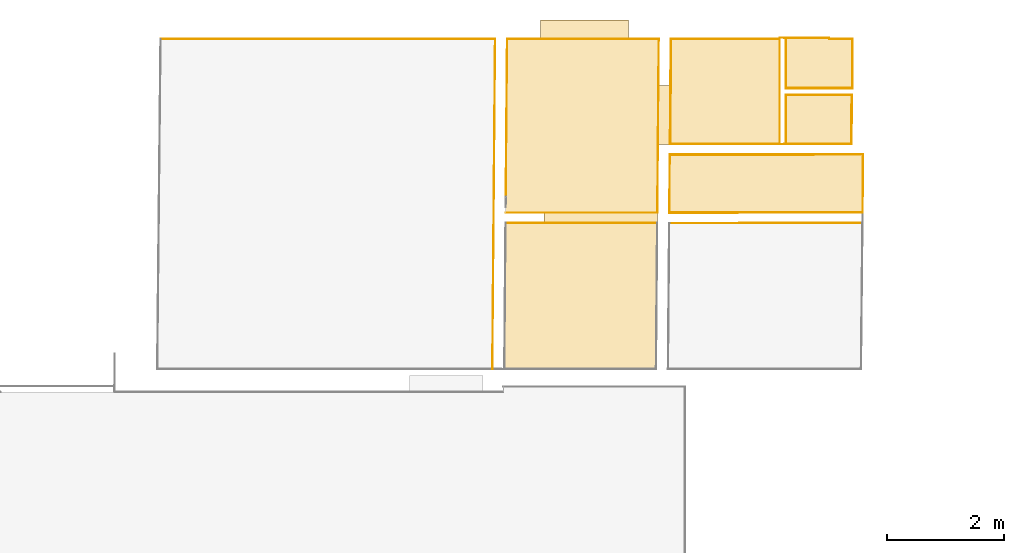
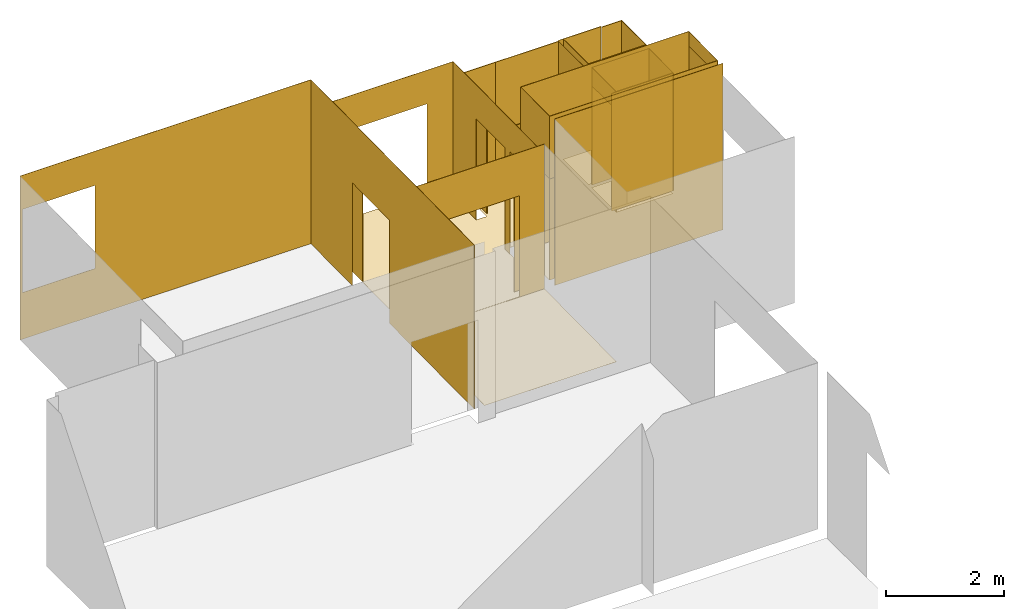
# One storey, part 28 of 33: 33 coverings, 11 openings.
"""IFC2X3 building model written with IfcOpenShell, lengths in millimetres."""

from ifc_helpers import new_model, entity, si_unit, converted_unit, derived_unit, money_unit, direction, frame, origin_with_axes, origin_2d_with_axis, place, context, subcontext, project, spatial, polyline, rectangle, outline, extrude, material, type_object, element, save


model = new_model("IFC2X3")

# Units and contexts
model_context = context("Model", 3, precision=0.01, world=origin_with_axes(), true_north=direction((0.0, 1.0)))
body_context = subcontext(model_context, "Body", "Model", "MODEL_VIEW")
ifc_project = project(units=[si_unit("LENGTHUNIT", "METRE", prefix="MILLI"), si_unit("AREAUNIT", "SQUARE_METRE"), si_unit("VOLUMEUNIT", "CUBIC_METRE"), converted_unit("PLANEANGLEUNIT", "DEGREE", entity("IfcPlaneAngleMeasure", 0.0174532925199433), si_unit("PLANEANGLEUNIT", "RADIAN"), dimensions=[0, 0, 0, 0, 0, 0, 0]), money_unit("EUR"), converted_unit("TIMEUNIT", "Year", entity("IfcTimeMeasure", 31556926.0), si_unit("TIMEUNIT", "SECOND"), dimensions=[0, 0, 1, 0, 0, 0, 0]), si_unit("MASSUNIT", "GRAM", prefix="KILO"), si_unit("THERMODYNAMICTEMPERATUREUNIT", "DEGREE_CELSIUS"), si_unit("LUMINOUSINTENSITYUNIT", "LUMEN"), si_unit("ENERGYUNIT", "JOULE", prefix="MEGA"), derived_unit("THERMALCONDUCTANCEUNIT", [(si_unit("POWERUNIT", "WATT"), 1), (si_unit("LENGTHUNIT", "METRE"), -1), (si_unit("THERMODYNAMICTEMPERATUREUNIT", "KELVIN"), -1)]), derived_unit("SPECIFICHEATCAPACITYUNIT", [(si_unit("ENERGYUNIT", "JOULE"), 1), (si_unit("MASSUNIT", "GRAM", prefix="KILO"), -1), (si_unit("THERMODYNAMICTEMPERATUREUNIT", "KELVIN"), -1)]), derived_unit("MASSDENSITYUNIT", [(si_unit("MASSUNIT", "GRAM", prefix="KILO"), 1), (si_unit("VOLUMEUNIT", "CUBIC_METRE"), -1)])], contexts=[model_context])

# Site, building, storey
site_placement = place(None, origin_with_axes())
site = spatial("IfcSite", under=ifc_project, at=site_placement, Name="Paldiski mnt 245/1, Tallinn, Harjumaa", CompositionType="COMPLEX")
building_placement = place(site_placement, origin_with_axes())
building = spatial("IfcBuilding", under=site, at=building_placement, Name="RKAS Hoone üldnimetus (kasutust iseloomustav) -> IFC Project Manager -> SOLIBRI", CompositionType="ELEMENT")
storey_placement = place(building_placement, origin_with_axes())
storey = spatial("IfcBuildingStorey", under=building, at=storey_placement, Name="Esimene korrus", CompositionType="ELEMENT", Elevation=0.0)

# Covering, opening
ifc_material_1 = material(Name="SA- Värv SM4(Niiskuskindel värv)")
covering_type_1 = type_object("IfcCoveringType", Name="SA- Värv SM4(Niiskuskindel värv) 5", PredefinedType="CLADDING")
covering_1_placement = place(storey_placement, frame((-50859.10372353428, 32630.2262574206, 0.0), z_axis=(0.0, 0.0, 1.0), x_axis=(-1.0, 0.0, 0.0)))
covering_1 = element("IfcCovering", 1, at=covering_1_placement, inside=storey, type_object=covering_type_1, material=ifc_material_1, Name="SM4", PredefinedType="CLADDING", context=body_context, shape_type="SweptSolid", body=[
    extrude(outline(polyline([(1.868150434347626e-05, 0.0), (2589.992998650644, 0.0), (2585.034685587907, 5.000000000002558), (0.04188086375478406, 5.000000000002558), (1.868150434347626e-05, 0.0)])), origin_with_axes(), (0.0, 0.0, 1.0), 3000.0),
])
opening_1_placement = place(covering_1_placement, frame((-50859.10372353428, 32630.2262574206, 0.0), z_axis=(0.0, 0.0, 1.0), x_axis=(-1.0, 0.0, 0.0)))
element("IfcOpeningElement", 2, at=opening_1_placement, cuts=covering_1, Name="AVA", ObjectType="OPENING", context=body_context, shape_type="SweptSolid", body=[
    extrude(rectangle(XDim=1448.552508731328, YDim=2099.0, at=origin_2d_with_axis()), frame((-52073.39716400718, 32635.2262574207, 1050.5), z_axis=(0.0, 1.0, 0.0), x_axis=(-1.0, 0.0, 0.0)), (0.0, 0.0, -1.0), 15.00000000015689),
])

# Covering, openings
covering_2_placement = place(storey_placement, frame((-50857.6804280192, 32800.2262574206, 0.0), z_axis=(0.0, 0.0, 1.0), x_axis=(0.008372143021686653, 0.999964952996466, 0.0)))
covering_2 = element("IfcCovering", 3, at=covering_2_placement, inside=storey, type_object=covering_type_1, material=ifc_material_1, Name="SM4", PredefinedType="CLADDING", context=body_context, shape_type="SweptSolid", body=[
    extrude(outline(polyline([(11.00038553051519, 0.0), (2969.706546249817, 0.0), (2969.664684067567, 4.999999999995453), (-0.04186218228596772, 5.000000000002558), (11.00038553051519, 0.0)])), origin_with_axes(), (0.0, 0.0, 1.0), 2800.0),
])
opening_2_placement = place(covering_2_placement, frame((-32373.28893348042, -51130.5062040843, 0.0), z_axis=(0.0, 0.0, 1.0), x_axis=(0.008372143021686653, -0.999964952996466, 0.0)))
element("IfcOpeningElement", 4, at=opening_2_placement, cuts=covering_2, Name="AVA", ObjectType="OPENING", context=body_context, shape_type="SweptSolid", body=[
    extrude(rectangle(XDim=1015.029836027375, YDim=2130.12326312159, at=origin_2d_with_axis()), frame((-50802.95498760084, 33297.98878511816, 1065.061631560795), z_axis=(0.999964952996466, -0.008372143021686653, 0.0), x_axis=(0.008372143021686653, 0.999964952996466, 0.0)), (0.0, 0.0, -1.0), 89.59103767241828),
])
opening_3_placement = place(covering_2_placement, frame((-32373.28893348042, -51130.5062040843, 0.0), z_axis=(0.0, 0.0, 1.0), x_axis=(0.008372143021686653, -0.999964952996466, 0.0)))
element("IfcOpeningElement", 5, at=opening_3_placement, cuts=covering_2, Name="AVA", ObjectType="OPENING", context=body_context, shape_type="SweptSolid", body=[
    extrude(rectangle(XDim=999.9999999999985, YDim=2100.0, at=origin_2d_with_axis()), frame((-50802.95498760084, 34471.14459560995, 1050.0), z_axis=(0.999964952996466, -0.008372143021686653, 0.0), x_axis=(0.008372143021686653, 0.999964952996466, 0.0)), (0.0, 0.0, -1.0), 89.59103767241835),
])

# Covering, opening
covering_3_placement = place(storey_placement, frame((-50832.81762019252, 35769.82871110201, 0.0), z_axis=(0.0, 0.0, 1.0), x_axis=(-0.9999999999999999, -1.366369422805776e-08, 0.0)))
covering_3 = element("IfcCovering", 6, at=covering_3_placement, inside=storey, type_object=covering_type_1, material=ifc_material_1, Name="SM4", PredefinedType="CLADDING", context=body_context, shape_type="SweptSolid", body=[
    extrude(outline(polyline([(0.0, 0.0), (2589.992990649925, 0.0), (2589.992990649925, 5.000000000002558), (0.0, 5.000000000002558), (0.0, 0.0)])), origin_with_axes(), (0.0, 0.0, 1.0), 2800.0),
])
opening_4_placement = place(covering_3_placement, frame((-50832.81713144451, 35769.82940566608, 0.0), z_axis=(0.0, 0.0, 1.0), x_axis=(-0.9999999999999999, 1.366369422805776e-08, 0.0)))
element("IfcOpeningElement", 7, at=opening_4_placement, cuts=covering_3, Name="AVA", ObjectType="OPENING", context=body_context, shape_type="SweptSolid", body=[
    extrude(rectangle(XDim=1500.000000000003, YDim=2100.0, at=origin_2d_with_axis()), frame((-52099.12090970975, 35774.82874649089, 1050.0), z_axis=(-1.366369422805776e-08, 0.9999999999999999, 0.0), x_axis=(-0.9999999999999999, -1.366369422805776e-08, 0.0)), (0.0, 0.0, -1.0), 15.00010616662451),
])

covering_4_placement = place(storey_placement, frame((-53422.81061084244, 35769.82867571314, 0.0), z_axis=(0.0, 0.0, 1.0), x_axis=(-0.008372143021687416, -0.999964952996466, 0.0)))
covering_4 = element("IfcCovering", 8, at=covering_4_placement, inside=storey, type_object=covering_type_1, material=ifc_material_1, Name="SM4", PredefinedType="CLADDING", context=body_context, shape_type="SweptSolid", body=[
    extrude(outline(polyline([(-4.864322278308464e-05, 0.0), (2700.178202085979, 0.0), (2695.178202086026, 4.999999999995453), (-0.04191082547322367, 4.999999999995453), (-4.864322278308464e-05, 0.0)])), origin_with_axes(), (0.0, 0.0, 1.0), 2800.0),
])
opening_5_placement = place(covering_4_placement, frame((35321.31163934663, 53720.40842294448, 0.0), z_axis=(0.0, 0.0, 1.0), x_axis=(-0.008372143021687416, 0.999964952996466, 0.0)))
element("IfcOpeningElement", 9, at=opening_5_placement, cuts=covering_4, Name="AVA", ObjectType="OPENING", context=body_context, shape_type="SweptSolid", body=[
    extrude(rectangle(XDim=1305.93822624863, YDim=2136.216417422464, at=origin_2d_with_axis()), frame((-53473.02299179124, 33690.9543071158, 1068.108208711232), z_axis=(-0.999964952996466, 0.008372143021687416, 0.0), x_axis=(-0.008372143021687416, -0.999964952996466, 0.0)), (0.0, 0.0, -1.0), 82.82121120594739),
])

covering_5_placement = place(storey_placement, frame((-53447.67341837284, 32800.22625742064, 0.0), z_axis=(0.0, 0.0, 1.0), x_axis=(1.0, 0.0, 0.0)))
covering_5 = element("IfcCovering", 10, at=covering_5_placement, inside=storey, type_object=covering_type_1, material=ifc_material_1, Name="SM4", PredefinedType="CLADDING", context=body_context, shape_type="SweptSolid", body=[
    extrude(outline(polyline([(0.0, 0.0), (2589.99299035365, 0.0), (2590.034852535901, 5.000000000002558), (5.042037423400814, 5.000000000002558), (0.0, 0.0)])), origin_with_axes(), (0.0, 0.0, 1.0), 2800.0),
])
opening_6_placement = place(covering_5_placement, frame((53447.67341837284, -32800.22625742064, 0.0), z_axis=(0.0, 0.0, 1.0), x_axis=(1.0, 0.0, 0.0)))
element("IfcOpeningElement", 11, at=opening_6_placement, cuts=covering_5, Name="AVA", ObjectType="OPENING", context=body_context, shape_type="SweptSolid", body=[
    extrude(rectangle(XDim=1448.552508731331, YDim=2100.0, at=origin_2d_with_axis()), frame((-52073.39716400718, 32795.22625742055, 1050.0), z_axis=(0.0, -1.0, 0.0), x_axis=(1.0, 0.0, 0.0)), (0.0, 0.0, -1.0), 15.00000000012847),
])

# Coverings
covering_6_placement = place(storey_placement, frame((-47358.63655303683, 32800.22625742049, 0.0), z_axis=(0.0, 0.0, 1.0), x_axis=(0.008061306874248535, 0.9999675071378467, 0.0)))
element("IfcCovering", 12, at=covering_6_placement, inside=storey, type_object=covering_type_1, material=ifc_material_1, Name="SM4", PredefinedType="CLADDING", context=body_context, shape_type="SweptSolid", body=[
    extrude(outline(polyline([(0.0, 0.0), (999.6068747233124, 0.0), (988.5652853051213, 5.000000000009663), (0.0, 5.000000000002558), (0.0, 0.0)])), origin_with_axes(), (0.0, 0.0, 1.0), 3100.0),
])
covering_7_placement = place(storey_placement, frame((-50857.68364690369, 32799.84179532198, 2100.0), z_axis=(0.0, 0.0, 1.0), x_axis=(0.9999999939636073, 0.0001098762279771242, 0.0)))
element("IfcCovering", 13, at=covering_7_placement, inside=storey, type_object=covering_type_1, material=ifc_material_1, Name="SM4", PredefinedType="CLADDING", context=body_context, shape_type="SweptSolid", body=[
    extrude(outline(polyline([(200.0071948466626, 0.0), (3499.047114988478, 0.0), (3499.098073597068, 5.000000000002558), (200.0496064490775, 5.000000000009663), (200.0071948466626, 0.0)])), origin_with_axes(), (0.0, 0.0, 1.0), 1300.0),
])
covering_8_placement = place(storey_placement, frame((-47348.55872669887, 33799.82872435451, 2100.0), z_axis=(0.0, 0.0, 1.0), x_axis=(-0.9999999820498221, -0.0001894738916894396, 0.0)))
element("IfcCovering", 14, at=covering_8_placement, inside=storey, type_object=covering_type_1, material=ifc_material_1, Name="SM4", PredefinedType="CLADDING", context=body_context, shape_type="SweptSolid", body=[
    extrude(outline(polyline([(0.0, 0.0), (3300.750878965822, 0.0), (3300.793688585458, 4.999999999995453), (0.05135663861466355, 4.999999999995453), (0.0, 0.0)])), origin_with_axes(), (0.0, 0.0, 1.0), 1300.0),
])
covering_9_placement = place(storey_placement, frame((-50649.30954641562, 33799.20331823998, 2100.0), z_axis=(0.0, 0.0, 1.0), x_axis=(-0.008372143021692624, -0.9999649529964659, 0.0)))
element("IfcCovering", 15, at=covering_9_placement, inside=storey, type_object=covering_type_1, material=ifc_material_1, Name="SM4", PredefinedType="CLADDING", context=body_context, shape_type="SweptSolid", body=[
    extrude(outline(polyline([(5.000183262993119, 0.0), (994.3743920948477, 0.0), (994.3319804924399, 4.999999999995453), (4.957373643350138, 5.000000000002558), (5.000183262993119, 0.0)])), origin_with_axes(), (0.0, 0.0, 1.0), 1300.0),
])
covering_10_placement = place(storey_placement, frame((-48771.03143764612, 33969.82872435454, 0.0), z_axis=(0.0, 0.0, 1.0), x_axis=(0.0, 1.0, 0.0)))
element("IfcCovering", 16, at=covering_10_placement, inside=storey, type_object=covering_type_1, material=ifc_material_1, Name="SM4", PredefinedType="CLADDING", context=body_context, shape_type="SweptSolid", body=[
    extrude(outline(polyline([(0.0, 0.0), (1800.000000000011, 0.0), (1800.000000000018, 5.000000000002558), (12.00022303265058, 5.000000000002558), (0.0, 0.0)])), origin_with_axes(), (0.0, 0.0, 1.0), 2500.0),
])

# Covering, opening
covering_11_placement = place(storey_placement, frame((-48671.03143764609, 34819.91506524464, 0.0), z_axis=(0.0, 0.0, 1.0), x_axis=(0.0, -1.0, 0.0)))
covering_11 = element("IfcCovering", 17, at=covering_11_placement, inside=storey, type_object=covering_type_1, material=ifc_material_1, Name="SM4", PredefinedType="CLADDING", context=body_context, shape_type="SweptSolid", body=[
    extrude(outline(polyline([(12.00000000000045, 0.0), (838.0863408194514, 0.0), (838.085798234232, 5.000000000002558), (12.00000000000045, 5.000000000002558), (12.00000000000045, 0.0)])), origin_with_axes(), (0.0, 0.0, 1.0), 2500.0),
])
opening_7_placement = place(covering_11_placement, frame((34819.91506524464, 48671.03143764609, 0.0), z_axis=(0.0, 0.0, 1.0), x_axis=(0.0, 1.0, 0.0)))
element("IfcOpeningElement", 18, at=opening_7_placement, cuts=covering_11, Name="AVA", ObjectType="OPENING", context=body_context, shape_type="SweptSolid", body=[
    extrude(rectangle(XDim=773.9482912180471, YDim=2119.058361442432, at=origin_2d_with_axis()), frame((-48676.03143764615, 34427.94091963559, 1059.529180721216), z_axis=(-1.0, 0.0, 0.0), x_axis=(0.0, -1.0, 0.0)), (0.0, 0.0, -1.0), 15.00000000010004),
])

covering_12_placement = place(storey_placement, frame((-48671.03143764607, 35770.00140613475, 0.0), z_axis=(0.0, 0.0, 1.0), x_axis=(0.0, -1.0, 0.0)))
covering_12 = element("IfcCovering", 19, at=covering_12_placement, inside=storey, type_object=covering_type_1, material=ifc_material_1, Name="SM4", PredefinedType="CLADDING", context=body_context, shape_type="SweptSolid", body=[
    extrude(outline(polyline([(0.0, 0.0), (850.0863408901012, 0.0), (850.0863408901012, 5.000000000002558), (0.0, 5.000000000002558), (0.0, 0.0)])), origin_with_axes(), (0.0, 0.0, 1.0), 2500.0),
])
opening_8_placement = place(covering_12_placement, frame((35770.00140613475, 48671.03143764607, 0.0), z_axis=(0.0, 0.0, 1.0), x_axis=(0.0, 1.0, 0.0)))
element("IfcOpeningElement", 20, at=opening_8_placement, cuts=covering_12, Name="AVA", ObjectType="OPENING", context=body_context, shape_type="SweptSolid", body=[
    extrude(rectangle(XDim=745.5843475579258, YDim=2117.02442511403, at=origin_2d_with_axis()), frame((-48676.03143764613, 35394.20613497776, 1058.512212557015), z_axis=(-1.0, 0.0, 0.0), x_axis=(0.0, -1.0, 0.0)), (0.0, 0.0, -1.0), 15.00000000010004),
])

# Covering
covering_13_placement = place(storey_placement, frame((-47358.63655303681, 32800.22625742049, 2100.0), z_axis=(0.0, 0.0, 1.0), x_axis=(0.01008132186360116, 0.9999491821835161, 0.0)))
element("IfcCovering", 21, at=covering_13_placement, inside=storey, type_object=covering_type_1, material=ifc_material_1, Name="SM4", PredefinedType="CLADDING", context=body_context, shape_type="SweptSolid", body=[
    extrude(outline(polyline([(0.0, 0.0), (999.6532671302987, 0.0), (999.6532671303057, 4.999999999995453), (0.0, 4.999999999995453), (0.0, 0.0)])), origin_with_axes(), (0.0, 0.0, 1.0), 1300.0),
])

# Covering, opening
covering_14_placement = place(storey_placement, frame((-53669.95443729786, 30139.82872435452, 0.0), z_axis=(0.0, 0.0, 1.0), x_axis=(0.008372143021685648, 0.999964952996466, 0.0)))
covering_14 = element("IfcCovering", 22, at=covering_14_placement, inside=storey, type_object=covering_type_1, material=ifc_material_1, Name="SM4", PredefinedType="CLADDING", context=body_context, shape_type="SweptSolid", body=[
    extrude(outline(polyline([(0.0, 0.0), (5630.197321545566, 0.0), (5630.155459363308, 4.999999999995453), (-0.04186218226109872, 4.999999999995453), (0.0, 0.0)])), origin_with_axes(), (0.0, 0.0, 1.0), 3400.0),
])
opening_9_placement = place(covering_14_placement, frame((-29689.4398791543, -53920.40842294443, 0.0), z_axis=(0.0, 0.0, 1.0), x_axis=(0.008372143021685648, -0.999964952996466, 0.0)))
element("IfcOpeningElement", 23, at=opening_9_placement, cuts=covering_14, Name="AVA", ObjectType="OPENING", context=body_context, shape_type="SweptSolid", body=[
    extrude(rectangle(XDim=1274.447602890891, YDim=2134.533039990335, at=origin_2d_with_axis()), frame((-53570.6809781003, 33697.97299427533, 1067.266519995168), z_axis=(0.999964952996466, -0.008372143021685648, 0.0), x_axis=(0.008372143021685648, 0.999964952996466, 0.0)), (0.0, 0.0, -1.0), 156.4154078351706),
])

covering_15_placement = place(storey_placement, frame((-53622.81762008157, 35769.82872435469, 0.0), z_axis=(0.0, 0.0, 1.0), x_axis=(-1.0, 0.0, 0.0)))
covering_15 = element("IfcCovering", 24, at=covering_15_placement, inside=storey, type_object=covering_type_1, material=ifc_material_1, Name="SM4", PredefinedType="CLADDING", context=body_context, shape_type="SweptSolid", body=[
    extrude(outline(polyline([(5.000175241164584, 0.0), (5706.489738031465, 0.0), (5706.489738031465, 5.000000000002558), (5.042037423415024, 5.000000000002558), (5.000175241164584, 0.0)])), origin_with_axes(), (0.0, 0.0, 1.0), 3400.0),
])
opening_10_placement = place(covering_15_placement, frame((-53622.81762008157, 35769.82872435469, 0.0), z_axis=(0.0, 0.0, 1.0), x_axis=(-1.0, 0.0, 0.0)))
element("IfcOpeningElement", 25, at=opening_10_placement, cuts=covering_15, Name="AVA", ObjectType="OPENING", context=body_context, shape_type="SweptSolid", body=[
    extrude(rectangle(XDim=1423.999967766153, YDim=1724.83239051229, at=origin_2d_with_axis()), frame((-58571.30734199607, 35774.82872435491, 1830.031309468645), z_axis=(0.0, 1.0, 0.0), x_axis=(-1.0, 0.0, 0.0)), (0.0, 0.0, -1.0), 15.00000000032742),
])

# Coverings
ifc_material_2 = material(Name="SA- PM-8 EPO lakk")
covering_type_2 = type_object("IfcCoveringType", Name="SA- PM-8 EPO lakk 1", PredefinedType="FLOORING")
covering_16_placement = place(storey_placement, frame((-50649.30429981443, 33799.82873601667, 0.0), z_axis=(0.0, 0.0, 1.0), x_axis=(1.0, 0.0, 0.0)))
element("IfcCovering", 26, at=covering_16_placement, inside=storey, type_object=covering_type_2, material=ifc_material_2, Name="PM-8", PredefinedType="FLOORING", context=body_context, shape_type="SweptSolid", body=[
    extrude(outline(polyline([(0.0, 0.0), (-8.372153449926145, -999.9649646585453), (3290.667746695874, -999.6024887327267), (3298.726187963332, 0.009553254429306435), (0.0, 0.0)])), origin_with_axes(), (0.0, 0.0, 1.0), 1.0),
])
covering_17_placement = place(storey_placement, frame((-48671.03143764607, 35789.82872435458, 0.0), z_axis=(0.0, 0.0, 1.0), x_axis=(1.0, 0.0, 0.0)))
element("IfcCovering", 27, at=covering_17_placement, inside=storey, type_object=covering_type_2, material=ifc_material_2, Name="PM-8", PredefinedType="FLOORING", context=body_context, shape_type="SweptSolid", body=[
    extrude(outline(polyline([(0.0, 0.0), (0.0, -869.9136591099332), (1130.745072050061, -869.9136591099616), (1130.745072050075, -19.99999932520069), (741.9105280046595, -20.00000000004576), (741.9105280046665, 0.0), (0.0, 0.0)])), origin_with_axes(), (0.0, 0.0, 1.0), 1.0),
])
covering_18_placement = place(storey_placement, frame((-53449.09671942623, 32630.22625185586, 0.0), z_axis=(0.0, 0.0, 1.0), x_axis=(1.0, 0.0, 0.0)))
element("IfcCovering", 28, at=covering_18_placement, inside=storey, type_object=covering_type_2, material=ifc_material_2, Name="PM-8", PredefinedType="FLOORING", context=body_context, shape_type="SweptSolid", body=[
    extrude(outline(polyline([(0.0, 0.0), (-20.85070822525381, -2490.39752750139), (2569.142268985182, -2490.39752750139), (2589.992977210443, 0.0), (2601.223433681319, 1341.3606163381), (4678.065281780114, 1339.602472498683), (4678.065281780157, 3159.602472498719), (3439.975809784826, 3159.602472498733), (3439.975809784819, 3139.602472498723), (2816.286108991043, 3139.60247249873), (2809.587866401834, 2339.56742549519), (2609.594875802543, 2341.241854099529), (2616.279099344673, 3139.602472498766), (2099.975809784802, 3139.602472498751), (2099.975809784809, 3459.602472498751), (599.9758097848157, 3459.602472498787), (599.9758097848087, 3139.602472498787), (26.28610899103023, 3139.602472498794), (1.423301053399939, 170.0000055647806), (651.4233010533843, 170.0000055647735), (651.4233010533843, 5.564771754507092e-06), (0.0, 0.0)])), origin_with_axes(), (0.0, 0.0, 1.0), 1.0),
])
covering_19_placement = place(storey_placement, frame((-48671.03143764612, 33980.53295233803, 0.0), z_axis=(0.0, 0.0, 1.0), x_axis=(1.0, 0.0, 0.0)))
element("IfcCovering", 29, at=covering_19_placement, inside=storey, type_object=covering_type_2, material=ifc_material_2, Name="PM-8", PredefinedType="FLOORING", context=body_context, shape_type="SweptSolid", body=[
    extrude(outline(polyline([(0.0, 0.0), (0.0, -10.62051274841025), (641.4513733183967, -10.62051274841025), (1112.187229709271, -10.58353671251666), (1120.73628165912, 839.3821129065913), (0.0, 839.3821129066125), (0.0, 89.38211290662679), (0.0, 0.0)])), origin_with_axes(), (0.0, 0.0, 1.0), 1.0),
])
ifc_material_3 = material(Name="SA- Värv SM12(tolmutõke)")
covering_type_3 = type_object("IfcCoveringType", Name="SA- Värv SM12(tolmutõke) 5", PredefinedType="CLADDING")
covering_20_placement = place(storey_placement, frame((-47360.3504648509, 32630.22625742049, 0.0), z_axis=(0.0, 0.0, 1.0), x_axis=(-0.9999999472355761, -0.0003248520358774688, 0.0)))
element("IfcCovering", 30, at=covering_20_placement, inside=storey, type_object=covering_type_3, material=ifc_material_3, Name="SM12", PredefinedType="CLADDING", context=body_context, shape_type="SweptSolid", body=[
    extrude(outline(polyline([(0.0, 0.0), (3298.755413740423, 0.0), (3293.7987111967, 5.000000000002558), (0.05203360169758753, 4.999999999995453), (0.0, 0.0)])), origin_with_axes(), (0.0, 0.0, 1.0), 3450.0),
])
ifc_material_4 = material(Name="SA- Laminaat SM13(beez laminaat)")
covering_type_4 = type_object("IfcCoveringType", Name="SA- Laminaat SM13(beez laminaat) 12", PredefinedType="CLADDING")
covering_21_placement = place(storey_placement, frame((-47538.29454900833, 34819.91506524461, 60.0), z_axis=(0.0, 0.0, 1.0), x_axis=(-1.0, 0.0, 0.0)))
element("IfcCovering", 31, at=covering_21_placement, inside=storey, type_object=covering_type_4, material=ifc_material_4, Name="SM13", PredefinedType="CLADDING", context=body_context, shape_type="SweptSolid", body=[
    extrude(outline(polyline([(0.0, 0.0), (1132.736888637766, 0.0), (1132.736888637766, 12.00000000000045), (12.12130435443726, 12.00000000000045), (0.0, 0.0)])), origin_with_axes(), (0.0, 0.0, 1.0), 2440.0),
])
covering_22_placement = place(storey_placement, frame((-47546.84481488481, 33969.8287243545, 60.0), z_axis=(0.0, 0.0, 1.0), x_axis=(0.01005760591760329, 0.9999494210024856, 0.0)))
element("IfcCovering", 32, at=covering_22_placement, inside=storey, type_object=covering_type_4, material=ifc_material_4, Name="SM13", PredefinedType="CLADDING", context=body_context, shape_type="SweptSolid", body=[
    extrude(outline(polyline([(0.0, 0.0), (850.1293395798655, 0.0), (850.0086422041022, 11.99999999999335), (0.0, 11.99999999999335), (0.0, 0.0)])), origin_with_axes(), (0.0, 0.0, 1.0), 2440.0),
])
covering_23_placement = place(storey_placement, frame((-48671.03143764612, 33969.82872435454, 60.0), z_axis=(0.0, 0.0, 1.0), x_axis=(0.9999999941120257, 0.0001085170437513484, 0.0)))
element("IfcCovering", 33, at=covering_23_placement, inside=storey, type_object=covering_type_4, material=ifc_material_4, Name="SM13", PredefinedType="CLADDING", context=body_context, shape_type="SweptSolid", body=[
    extrude(outline(polyline([(-100.0000005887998, 0.0), (1112.187236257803, 0.0), (1112.30923597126, 12.00000000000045), (0.001302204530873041, 12.00000000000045), (-100.0000005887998, 0.0)])), origin_with_axes(), (0.0, 0.0, 1.0), 2440.0),
])

# Covering, opening
covering_24_placement = place(storey_placement, frame((-50632.81061043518, 35769.82872435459, 60.0), z_axis=(0.0, 0.0, 1.0), x_axis=(-0.008372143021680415, -0.999964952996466, 0.0)))
covering_24 = element("IfcCovering", 34, at=covering_24_placement, inside=storey, type_object=covering_type_4, material=ifc_material_4, Name="SM13", PredefinedType="CLADDING", context=body_context, shape_type="SweptSolid", body=[
    extrude(outline(polyline([(0.0, 0.0), (1799.979368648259, 0.0), (1799.979368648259, 12.00000000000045), (-0.1004692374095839, 12.00000000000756), (0.0, 0.0)])), origin_with_axes(), (0.0, 0.0, 1.0), 2440.0),
])
opening_11_placement = place(covering_24_placement, frame((35344.66996702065, 50930.50620408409, -60.0), z_axis=(0.0, 0.0, 1.0), x_axis=(-0.008372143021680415, 0.999964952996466, 0.0)))
element("IfcOpeningElement", 35, at=opening_11_placement, cuts=covering_24, Name="AVA", ObjectType="OPENING", context=body_context, shape_type="SweptSolid", body=[
    extrude(rectangle(XDim=994.9161084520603, YDim=2412.386142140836, at=origin_2d_with_axis()), frame((-50674.94955929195, 34472.61491316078, 893.8069289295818), z_axis=(-0.999964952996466, 0.008372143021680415, 0.0), x_axis=(-0.008372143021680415, -0.999964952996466, 0.0)), (0.0, 0.0, -1.0), 81.21063862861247),
])

# Coverings
covering_25_placement = place(storey_placement, frame((-47929.1209096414, 35789.82872435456, 60.0), z_axis=(0.0, 0.0, 1.0), x_axis=(-1.0, 0.0, 0.0)))
element("IfcCovering", 36, at=covering_25_placement, inside=storey, type_object=covering_type_4, material=ifc_material_4, Name="SM13", PredefinedType="CLADDING", context=body_context, shape_type="SweptSolid", body=[
    extrude(outline(polyline([(0.0, 0.0), (841.9105280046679, 0.0), (741.9105280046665, 12.00000000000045), (0.0, 12.00000000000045), (0.0, 0.0)])), origin_with_axes(), (0.0, 0.0, 1.0), 2440.0),
])
covering_26_placement = place(storey_placement, frame((-47528.24755503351, 35770.23234790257, 60.0), z_axis=(0.0, 0.0, 1.0), x_axis=(-0.9999994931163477, -0.001006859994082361, 0.0)))
element("IfcCovering", 37, at=covering_26_placement, inside=storey, type_object=covering_type_4, material=ifc_material_4, Name="SM13", PredefinedType="CLADDING", context=body_context, shape_type="SweptSolid", body=[
    extrude(outline(polyline([(0.0, 0.0), (400.8735578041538, 0.0), (400.8735578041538, 12.00000000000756), (12.01263668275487, 11.99999999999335), (0.0, 0.0)])), origin_with_axes(), (0.0, 0.0, 1.0), 2440.0),
])
covering_27_placement = place(storey_placement, frame((-47528.28636560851, 34919.91506524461, 60.0), z_axis=(0.0, 0.0, 1.0), x_axis=(4.564246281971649e-05, 0.9999999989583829, 0.0)))
element("IfcCovering", 38, at=covering_27_placement, inside=storey, type_object=covering_type_4, material=ifc_material_4, Name="SM13", PredefinedType="CLADDING", context=body_context, shape_type="SweptSolid", body=[
    extrude(outline(polyline([(0.0, 0.0), (850.3172835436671, 0.0), (838.3046468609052, 12.00000000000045), (11.99945230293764, 12.00000000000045), (0.0, 0.0)])), origin_with_axes(), (0.0, 0.0, 1.0), 2440.0),
])
covering_28_placement = place(storey_placement, frame((-48671.0314376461, 34919.91506524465, 60.0), z_axis=(0.0, 0.0, 1.0), x_axis=(1.0, 0.0, 0.0)))
element("IfcCovering", 39, at=covering_28_placement, inside=storey, type_object=covering_type_4, material=ifc_material_4, Name="SM13", PredefinedType="CLADDING", context=body_context, shape_type="SweptSolid", body=[
    extrude(outline(polyline([(0.0, 0.0), (1142.745072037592, 0.0), (1130.74561973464, 12.00000000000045), (0.0, 12.00000000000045), (0.0, 0.0)])), origin_with_axes(), (0.0, 0.0, 1.0), 2440.0),
])
covering_29_placement = place(storey_placement, frame((-50642.88012177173, 33969.91221656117, 60.0), z_axis=(0.0, 0.0, 1.0), x_axis=(0.9999999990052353, -4.460414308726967e-05, 0.0)))
element("IfcCovering", 40, at=covering_29_placement, inside=storey, type_object=covering_type_4, material=ifc_material_4, Name="SM13", PredefinedType="CLADDING", context=body_context, shape_type="SweptSolid", body=[
    extrude(outline(polyline([(0.0, 0.0), (1871.848685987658, 0.0), (1866.84815073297, 12.00000000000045), (0.0, 12.00000000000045), (0.0, 0.0)])), origin_with_axes(), (0.0, 0.0, 1.0), 2440.0),
])
covering_30_placement = place(storey_placement, frame((-48771.03143764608, 35769.82872435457, 60.0), z_axis=(0.0, 0.0, 1.0), x_axis=(-1.0, 0.0, 0.0)))
element("IfcCovering", 41, at=covering_30_placement, inside=storey, type_object=covering_type_4, material=ifc_material_4, Name="SM13", PredefinedType="CLADDING", context=body_context, shape_type="SweptSolid", body=[
    extrude(outline(polyline([(0.0, 0.0), (1238.08947199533, 0.0), (1238.08947199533, 12.00000000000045), (0.0, 12.00000000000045), (0.0, 0.0)])), origin_with_axes(), (0.0, 0.0, 1.0), 2440.0),
])
covering_31_placement = place(storey_placement, frame((-50009.12090964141, 35769.82872435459, 60.0), z_axis=(0.0, 0.0, 1.0), x_axis=(-1.0, 0.0, 0.0)))
element("IfcCovering", 42, at=covering_31_placement, inside=storey, type_object=covering_type_4, material=ifc_material_4, Name="SM13", PredefinedType="CLADDING", context=body_context, shape_type="SweptSolid", body=[
    extrude(outline(polyline([(0.0, 0.0), (623.6897007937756, 0.0), (623.6897007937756, 12.00000000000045), (0.0, 12.00000000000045), (0.0, 0.0)])), origin_with_axes(), (0.0, 0.0, 1.0), 2440.0),
])
ifc_material_5 = material(Name="SA- Plaat SM9(hele)")
covering_type_5 = type_object("IfcCoveringType", Name="SA- Plaat SM9(hele) 11", PredefinedType="CLADDING")
covering_32_placement = place(storey_placement, frame((-47350.57841526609, 33799.80065205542, 0.0), z_axis=(0.0, 0.0, 1.0), x_axis=(-0.9999999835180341, -0.0001815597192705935, 0.0)))
element("IfcCovering", 43, at=covering_32_placement, inside=storey, type_object=covering_type_5, material=ifc_material_5, Name="SM9", PredefinedType="CLADDING", context=body_context, shape_type="SweptSolid", body=[
    extrude(outline(polyline([(0.0, 0.0), (3298.73119877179, 0.0), (3298.825292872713, 11.00000000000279), (5.090844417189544, 11.00000000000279), (0.0, 0.0)])), origin_with_axes(), (0.0, 0.0, 1.0), 2100.0),
])
covering_33_placement = place(storey_placement, frame((-50857.6804280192, 32800.22625742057, 0.0), z_axis=(0.0, 0.0, 1.0), x_axis=(1.0, 0.0, 0.0)))
element("IfcCovering", 44, at=covering_33_placement, inside=storey, type_object=covering_type_5, material=ifc_material_5, Name="SM9", PredefinedType="CLADDING", context=body_context, shape_type="SweptSolid", body=[
    extrude(outline(polyline([(200.0070096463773, 0.0), (3499.043874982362, 0.0), (3499.154775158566, 11.00000000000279), (200.0991064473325, 11.00000000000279), (200.0070096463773, 0.0)])), origin_with_axes(), (0.0, 0.0, 1.0), 2100.0),
])

save(model, "model.ifc")
